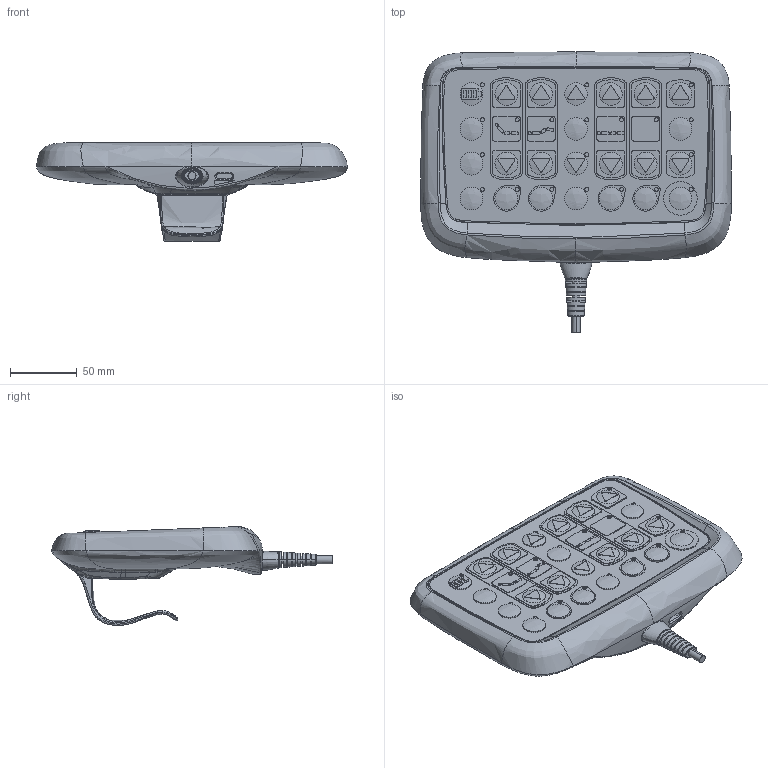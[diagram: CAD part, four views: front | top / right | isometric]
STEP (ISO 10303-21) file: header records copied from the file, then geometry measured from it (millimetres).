
FILE_DESCRIPTION (( 'STEP AP203' ), '1' );
FILE_NAME ('3D_TNP1.STEP', '2014-03-04T06:28:59', ( '' ), ( '' ), 'SwSTEP 2.0', 'SolidWorks 2010', '' );
FILE_SCHEMA (( 'CONFIG_CONTROL_DESIGN' ));
Products named in the file (1): 3D_TNP1
Bounding box: 232.22 x 209.32 x 73.87 mm (x, y, z)
Volume: 891579.4 mm3; surface area: 104201.8 mm2
Topology: 1 solids, 10 shells, 908 faces, 2408 edges, 1615 vertices
Faces by surface type: plane 344, cylinder 330, bspline 231, cone 3
Entity records: 58773 total; most frequent: CARTESIAN_POINT 38959, ORIENTED_EDGE 4800, DIRECTION 2841, EDGE_CURVE 2400, VERTEX_POINT 1615, B_SPLINE_CURVE_WITH_KNOTS 1237, EDGE_LOOP 1019, AXIS2_PLACEMENT_3D 1001
